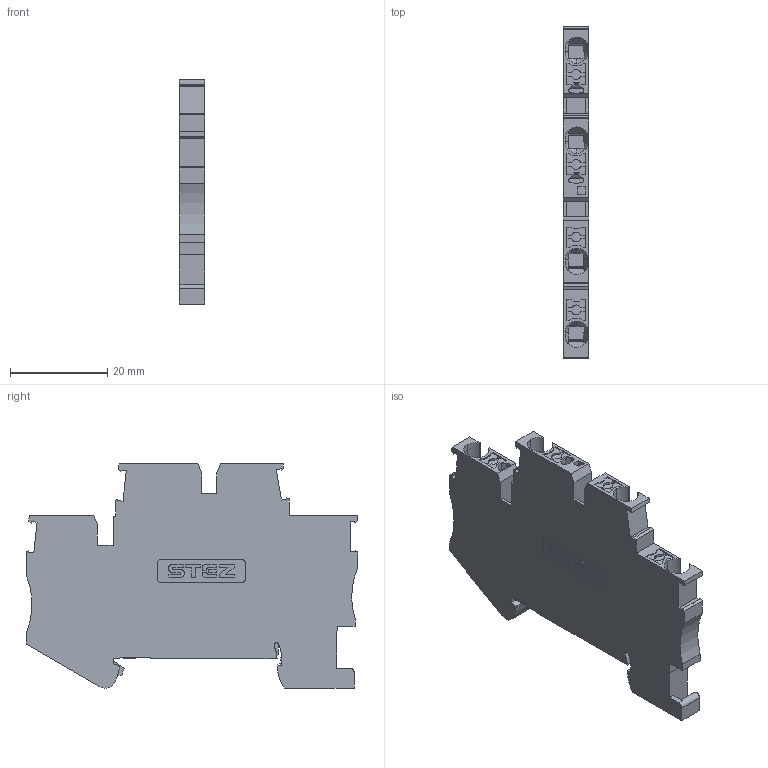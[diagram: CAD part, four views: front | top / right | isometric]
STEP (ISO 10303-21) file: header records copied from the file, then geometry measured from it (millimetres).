
FILE_DESCRIPTION(('TFLEX Exchange Step'),'2;1');
FILE_NAME('14100012_КНБ_2,5-2У-PE.stp', '2025-06-24T11:04:41+03:00',('MVarava'),('Unknown organisation'),'TFLEX Exchange 2023.0','T-FLEX CAD','Unknown authorisation');
FILE_SCHEMA( ('AUTOMOTIVE_DESIGN { 1 0 10303 214 1 1 1 1 }') );
Length unit declared in the file: millimetre
Products named in the file (1): Nodes
Bounding box: 5.15 x 68.2 x 46.06 mm (x, y, z)
Volume: 10819.2 mm3; surface area: 7515.9 mm2
Topology: 1 solids, 1 shells, 549 faces, 1589 edges, 1056 vertices
Faces by surface type: plane 317, cylinder 210, torus 8, cone 8, extrusion 6
Entity records: 18741 total; most frequent: CARTESIAN_POINT 4203, ORIENTED_EDGE 3178, DIRECTION 2792, EDGE_CURVE 1589, VERTEX_POINT 1056, VECTOR 986, LINE 980, AXIS2_PLACEMENT_3D 903
